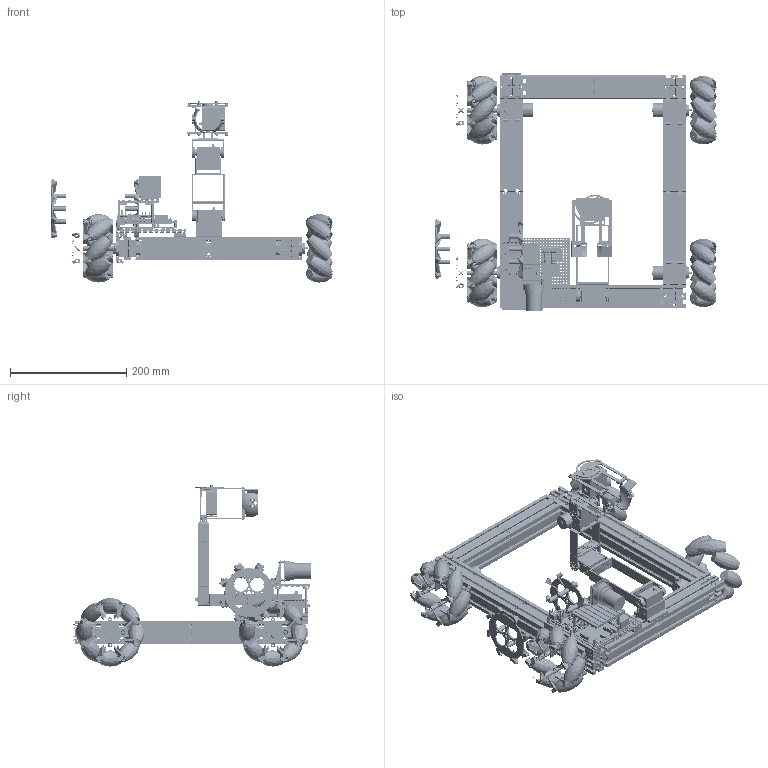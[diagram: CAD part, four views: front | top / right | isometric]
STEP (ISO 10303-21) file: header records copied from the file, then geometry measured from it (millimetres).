
FILE_DESCRIPTION(/* description */ (''),/* implementation_level */ '2;1');
FILE_NAME(/* name */ 'mrm-rob-arm.step',/* time_stamp */ '2024-01-28T10:20:33+01:00',/* author */ (''),/* organization */ (''),/* preprocessor_version */ 'ST-DEVELOPER v20',/* originating_system */ 'Autodesk Translation Framework v12.14.0.127',/* authorisation */ '');
FILE_SCHEMA (('AUTOMOTIVE_DESIGN { 1 0 10303 214 3 1 1 }'));
Products named in the file (251): mrm-rob-arm; BrickDouble2x2x6mf; BrickDouble24mmMotorHolder; BrickDouble2x2x6mf_1; BrickDouble24mmMotorHolder_1; BrickDouble2x2x2mf old; BrickDouble2x2x2mf old_1; BrickDouble2x2x6mf_2; BrickDouble2x2x6mf_3; BrickDouble2x2x2mf old_2; BrickDouble24mmMotorHolder_2; BrickDouble2x2x6mf_4; BrickDouble2x2x6mf_5; BrickDouble24mmMotorHolder_3; Brick 2x2x2 itself; BrickDouble2x2x2mf old_3; Brick 2x2x2 itself_1; BrickDouble2x2x6mf_6; BrickDouble2x2x6mf_7; Brick 2x2x2 itself_2; mrm-bdc24-100; MecanumWheel; MecanumWheelSide; MecanumWheelSide_1; MecanumWheel_1; MecanumWheelSide_2; MecanumWheelSide_3; NutHoleM2; mrm-bolt6m3nyl; MecanumWheelOpp; MecanumWheelSideOpp; MecanumWheelSideOpp_1; MecanumWheelOpp_1; MecanumWheelSideOpp_2; MecanumWheelRoller; MecanumWheelSideOpp_3; MecanumWheelSide v26(Mirror); NutHoleM2 v58(Mirror); mrm-hub4; CouplerSingleDoubleMM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
Assembly tree (659 placements, depth 5):
  mrm-rob-arm
    BrickDouble2x2x6mf
      Brick 2x2x2 itself_2
    BrickDouble24mmMotorHolder
      Brick 2x2x2 itself
    BrickDouble2x2x6mf_1
      Brick 2x2x2 itself_2
    BrickDouble24mmMotorHolder_1
      Brick 2x2x2 itself
    BrickDouble2x2x2mf old
      Brick 2x2x2 itself_1
      NutHoleM2
    BrickDouble2x2x2mf old_1
      Brick 2x2x2 itself_1
      NutHoleM2
    BrickDouble2x2x6mf_2
      Brick 2x2x2 itself_2
    BrickDouble2x2x6mf_3
      Brick 2x2x2 itself_2
    BrickDouble2x2x2mf old_2
      Brick 2x2x2 itself_1
      NutHoleM2
    BrickDouble24mmMotorHolder_2
      Brick 2x2x2 itself
    BrickDouble2x2x6mf_4
      Brick 2x2x2 itself_2
    BrickDouble2x2x6mf_5
      Brick 2x2x2 itself_2
    BrickDouble24mmMotorHolder_3
      Brick 2x2x2 itself
    BrickDouble2x2x2mf old_3
      Brick 2x2x2 itself_1
      NutHoleM2
    BrickDouble2x2x6mf_6
      Brick 2x2x2 itself_2
    BrickDouble2x2x6mf_7
      Brick 2x2x2 itself_2
    mrm-bdc24-100  x4
    mrm-bolt6m3nyl  x8
    MecanumWheel
      MecanumWheelRoller  x8
      MecanumWheelSide
        NutHoleM2
      MecanumWheelSide_1
        NutHoleM2
      mrm-hub4
      mrm-bolt6m3nyl  x2
    MecanumWheel_1
      MecanumWheelRoller  x8
      MecanumWheelSide_2
        NutHoleM2
      MecanumWheelSide_3
        NutHoleM2
      mrm-hub4
      mrm-bolt6m3nyl  x2
    MecanumWheelOpp
      MecanumWheelRoller  x8
      MecanumWheelSideOpp
        MecanumWheelSide v26(Mirror)
          NutHoleM2 v58(Mirror)
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Bounding box: 483.55 x 410.81 x 311.8 mm (x, y, z)
Volume: 1216591 mm3; surface area: 1590294.7 mm2
Topology: 966 solids, 1018 shells, 46026 faces, 120649 edges, 76797 vertices
Faces by surface type: plane 31430, cylinder 11006, sphere 2268, bspline 889, torus 396, cone 37
Full cylindrical faces by diameter (mm): 0.163 x2, 0.3 x791, 0.375 x2, 0.487 x4, 0.6 x34, 0.635 x1, 0.882 x1, 1.016 x197, 1.05 x20, 1.11 x12, 1.5 x61, 1.6 x1, 1.65 x8, 1.8 x8, 1.933 x82, 2 x169, 2.2 x43, 2.25 x11, 2.398 x9, 2.4 x1345, 2.5 x52, 2.75 x7, 2.927 x12, 3 x30, 3.2 x96, 3.5 x24, 3.6 x1, 3.7 x45, 4 x10, 5.2 x32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
Entity records: 624690 total; most frequent: CARTESIAN_POINT 124490, ORIENTED_EDGE 100070, DIRECTION 98175, EDGE_CURVE 50039, LINE 37103, VECTOR 37103, VERTEX_POINT 32041, AXIS2_PLACEMENT_3D 30536
